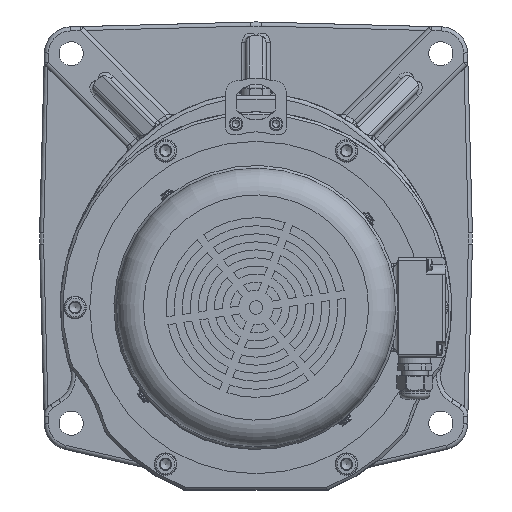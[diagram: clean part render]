
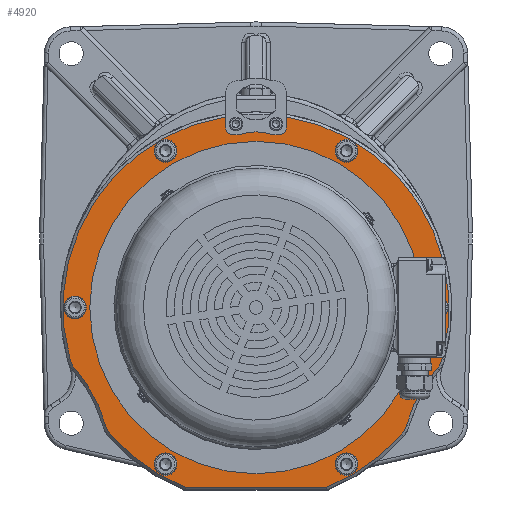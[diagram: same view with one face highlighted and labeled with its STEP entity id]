
A CAD part, left-side view. The second image highlights one B-rep face of the part: STEP entity #4920.
In plain terms, the highlighted planar face has unit normal (-1, 0, 0).
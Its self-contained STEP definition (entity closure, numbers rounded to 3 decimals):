
#1696=FACE_BOUND('',#10947,.T.);
#1697=FACE_BOUND('',#10948,.T.);
#1698=FACE_BOUND('',#10949,.T.);
#1699=FACE_BOUND('',#10950,.T.);
#1700=FACE_BOUND('',#10951,.T.);
#1701=FACE_BOUND('',#10952,.T.);
#1702=FACE_BOUND('',#10953,.T.);
#1703=FACE_BOUND('',#10954,.T.);
#2453=CIRCLE('',#42446,124.);
#2454=CIRCLE('',#42448,8.5);
#2455=CIRCLE('',#42450,8.5);
#2456=CIRCLE('',#42452,8.5);
#2457=CIRCLE('',#42454,8.5);
#2458=CIRCLE('',#42456,8.5);
#2459=CIRCLE('',#42458,8.5);
#2462=CIRCLE('',#42463,144.);
#2463=CIRCLE('',#42464,18.);
#2464=CIRCLE('',#42465,112.);
#2465=CIRCLE('',#42466,18.);
#2466=CIRCLE('',#42467,144.);
#2467=CIRCLE('',#42468,144.);
#2468=CIRCLE('',#42469,18.);
#2469=CIRCLE('',#42470,112.);
#2470=CIRCLE('',#42471,18.);
#2471=CIRCLE('',#42472,144.);
#2472=CIRCLE('',#42473,5.);
#2473=CIRCLE('',#42474,40.);
#2474=CIRCLE('',#42475,5.);
#4920=ADVANCED_FACE('',(#1696,#1697,#1698,#1699,#1700,#1701,#1702,#1703),
#7097,.F.);
#7097=PLANE('',#42476);
#10947=EDGE_LOOP('',(#21170,#21171,#21172,#21173,#21174,#21175,#21176,#21177,
#21178,#21179,#21180,#21181,#21182,#21183,#21184,#21185,#21186,#21187));
#10948=EDGE_LOOP('',(#21188));
#10949=EDGE_LOOP('',(#21189));
#10950=EDGE_LOOP('',(#21190));
#10951=EDGE_LOOP('',(#21191));
#10952=EDGE_LOOP('',(#21192));
#10953=EDGE_LOOP('',(#21193));
#10954=EDGE_LOOP('',(#21194));
#13603=LINE('',#62138,#16353);
#13604=LINE('',#62151,#16354);
#13605=LINE('',#62163,#16355);
#13606=LINE('',#62167,#16356);
#13607=LINE('',#62171,#16357);
#16353=VECTOR('',#48435,1.);
#16354=VECTOR('',#48446,1.);
#16355=VECTOR('',#48457,1.);
#16356=VECTOR('',#48460,1.);
#16357=VECTOR('',#48463,1.);
#21170=ORIENTED_EDGE('',*,*,#35781,.F.);
#21171=ORIENTED_EDGE('',*,*,#35782,.T.);
#21172=ORIENTED_EDGE('',*,*,#35783,.T.);
#21173=ORIENTED_EDGE('',*,*,#35784,.T.);
#21174=ORIENTED_EDGE('',*,*,#35785,.T.);
#21175=ORIENTED_EDGE('',*,*,#35786,.T.);
#21176=ORIENTED_EDGE('',*,*,#35787,.T.);
#21177=ORIENTED_EDGE('',*,*,#35788,.T.);
#21178=ORIENTED_EDGE('',*,*,#35789,.T.);
#21179=ORIENTED_EDGE('',*,*,#35790,.T.);
#21180=ORIENTED_EDGE('',*,*,#35791,.T.);
#21181=ORIENTED_EDGE('',*,*,#35792,.T.);
#21182=ORIENTED_EDGE('',*,*,#35793,.F.);
#21183=ORIENTED_EDGE('',*,*,#35794,.F.);
#21184=ORIENTED_EDGE('',*,*,#35795,.F.);
#21185=ORIENTED_EDGE('',*,*,#35796,.F.);
#21186=ORIENTED_EDGE('',*,*,#35797,.F.);
#21187=ORIENTED_EDGE('',*,*,#35798,.F.);
#21188=ORIENTED_EDGE('',*,*,#35778,.T.);
#21189=ORIENTED_EDGE('',*,*,#35777,.T.);
#21190=ORIENTED_EDGE('',*,*,#35776,.T.);
#21191=ORIENTED_EDGE('',*,*,#35775,.T.);
#21192=ORIENTED_EDGE('',*,*,#35774,.T.);
#21193=ORIENTED_EDGE('',*,*,#35773,.T.);
#21194=ORIENTED_EDGE('',*,*,#35772,.F.);
#31430=VERTEX_POINT('',#62113);
#31431=VERTEX_POINT('',#62116);
#31432=VERTEX_POINT('',#62119);
#31433=VERTEX_POINT('',#62122);
#31434=VERTEX_POINT('',#62125);
#31435=VERTEX_POINT('',#62128);
#31436=VERTEX_POINT('',#62131);
#31439=VERTEX_POINT('',#62139);
#31440=VERTEX_POINT('',#62140);
#31441=VERTEX_POINT('',#62142);
#31442=VERTEX_POINT('',#62144);
#31443=VERTEX_POINT('',#62146);
#31444=VERTEX_POINT('',#62148);
#31445=VERTEX_POINT('',#62150);
#31446=VERTEX_POINT('',#62152);
#31447=VERTEX_POINT('',#62154);
#31448=VERTEX_POINT('',#62156);
#31449=VERTEX_POINT('',#62158);
#31450=VERTEX_POINT('',#62160);
#31451=VERTEX_POINT('',#62162);
#31452=VERTEX_POINT('',#62164);
#31453=VERTEX_POINT('',#62166);
#31454=VERTEX_POINT('',#62168);
#31455=VERTEX_POINT('',#62170);
#31456=VERTEX_POINT('',#62172);
#35772=EDGE_CURVE('',#31430,#31430,#2453,.T.);
#35773=EDGE_CURVE('',#31431,#31431,#2454,.T.);
#35774=EDGE_CURVE('',#31432,#31432,#2455,.T.);
#35775=EDGE_CURVE('',#31433,#31433,#2456,.T.);
#35776=EDGE_CURVE('',#31434,#31434,#2457,.T.);
#35777=EDGE_CURVE('',#31435,#31435,#2458,.T.);
#35778=EDGE_CURVE('',#31436,#31436,#2459,.T.);
#35781=EDGE_CURVE('',#31439,#31440,#13603,.T.);
#35782=EDGE_CURVE('',#31439,#31441,#2462,.T.);
#35783=EDGE_CURVE('',#31441,#31442,#2463,.T.);
#35784=EDGE_CURVE('',#31442,#31443,#2464,.T.);
#35785=EDGE_CURVE('',#31443,#31444,#2465,.T.);
#35786=EDGE_CURVE('',#31444,#31445,#2466,.T.);
#35787=EDGE_CURVE('',#31445,#31446,#13604,.T.);
#35788=EDGE_CURVE('',#31446,#31447,#2467,.T.);
#35789=EDGE_CURVE('',#31447,#31448,#2468,.T.);
#35790=EDGE_CURVE('',#31448,#31449,#2469,.T.);
#35791=EDGE_CURVE('',#31449,#31450,#2470,.T.);
#35792=EDGE_CURVE('',#31450,#31451,#2471,.T.);
#35793=EDGE_CURVE('',#31452,#31451,#13605,.T.);
#35794=EDGE_CURVE('',#31453,#31452,#2472,.T.);
#35795=EDGE_CURVE('',#31454,#31453,#13606,.T.);
#35796=EDGE_CURVE('',#31455,#31454,#2473,.T.);
#35797=EDGE_CURVE('',#31456,#31455,#13607,.T.);
#35798=EDGE_CURVE('',#31440,#31456,#2474,.T.);
#42446=AXIS2_PLACEMENT_3D('',#62112,#48401,#48402);
#42448=AXIS2_PLACEMENT_3D('',#62115,#48405,#48406);
#42450=AXIS2_PLACEMENT_3D('',#62118,#48409,#48410);
#42452=AXIS2_PLACEMENT_3D('',#62121,#48413,#48414);
#42454=AXIS2_PLACEMENT_3D('',#62124,#48417,#48418);
#42456=AXIS2_PLACEMENT_3D('',#62127,#48421,#48422);
#42458=AXIS2_PLACEMENT_3D('',#62130,#48425,#48426);
#42463=AXIS2_PLACEMENT_3D('',#62141,#48436,#48437);
#42464=AXIS2_PLACEMENT_3D('',#62143,#48438,#48439);
#42465=AXIS2_PLACEMENT_3D('',#62145,#48440,#48441);
#42466=AXIS2_PLACEMENT_3D('',#62147,#48442,#48443);
#42467=AXIS2_PLACEMENT_3D('',#62149,#48444,#48445);
#42468=AXIS2_PLACEMENT_3D('',#62153,#48447,#48448);
#42469=AXIS2_PLACEMENT_3D('',#62155,#48449,#48450);
#42470=AXIS2_PLACEMENT_3D('',#62157,#48451,#48452);
#42471=AXIS2_PLACEMENT_3D('',#62159,#48453,#48454);
#42472=AXIS2_PLACEMENT_3D('',#62161,#48455,#48456);
#42473=AXIS2_PLACEMENT_3D('',#62165,#48458,#48459);
#42474=AXIS2_PLACEMENT_3D('',#62169,#48461,#48462);
#42475=AXIS2_PLACEMENT_3D('',#62173,#48464,#48465);
#42476=AXIS2_PLACEMENT_3D('',#62174,#48466,#48467);
#48401=DIRECTION('',(-1.,0.,0.));
#48402=DIRECTION('',(0.,0.,1.));
#48405=DIRECTION('',(1.,0.,0.));
#48406=DIRECTION('',(0.,0.,-1.));
#48409=DIRECTION('',(1.,0.,0.));
#48410=DIRECTION('',(0.,0.,-1.));
#48413=DIRECTION('',(1.,0.,0.));
#48414=DIRECTION('',(0.,0.,-1.));
#48417=DIRECTION('',(1.,0.,0.));
#48418=DIRECTION('',(0.,0.,-1.));
#48421=DIRECTION('',(1.,0.,0.));
#48422=DIRECTION('',(0.,0.,-1.));
#48425=DIRECTION('',(1.,0.,0.));
#48426=DIRECTION('',(0.,0.,-1.));
#48435=DIRECTION('',(0.,0.,-1.));
#48436=DIRECTION('',(-1.,0.,0.));
#48437=DIRECTION('',(0.,0.,-1.));
#48438=DIRECTION('',(-1.,0.,0.));
#48439=DIRECTION('',(0.,0.,-1.));
#48440=DIRECTION('',(1.,0.,0.));
#48441=DIRECTION('',(0.,0.,-1.));
#48442=DIRECTION('',(-1.,0.,0.));
#48443=DIRECTION('',(0.,0.,-1.));
#48444=DIRECTION('',(-1.,0.,0.));
#48445=DIRECTION('',(0.,0.,-1.));
#48446=DIRECTION('',(0.,-1.,0.));
#48447=DIRECTION('',(-1.,0.,0.));
#48448=DIRECTION('',(0.,0.,-1.));
#48449=DIRECTION('',(-1.,0.,0.));
#48450=DIRECTION('',(0.,0.,-1.));
#48451=DIRECTION('',(1.,0.,0.));
#48452=DIRECTION('',(0.,0.,-1.));
#48453=DIRECTION('',(-1.,0.,0.));
#48454=DIRECTION('',(0.,0.,-1.));
#48455=DIRECTION('',(-1.,0.,0.));
#48456=DIRECTION('',(0.,0.,-1.));
#48457=DIRECTION('',(0.,0.,1.));
#48458=DIRECTION('',(-1.,0.,0.));
#48459=DIRECTION('',(0.,-1.,0.));
#48460=DIRECTION('',(0.,-1.,0.));
#48461=DIRECTION('',(1.,0.,0.));
#48462=DIRECTION('',(0.,-1.,0.));
#48463=DIRECTION('',(0.,-1.,0.));
#48464=DIRECTION('',(-1.,0.,0.));
#48465=DIRECTION('',(0.,-1.,0.));
#48466=DIRECTION('',(1.,0.,0.));
#48467=DIRECTION('',(0.,0.,-1.));
#62112=CARTESIAN_POINT('',(-174.,0.,-51.5));
#62113=CARTESIAN_POINT('',(-174.,0.,72.5));
#62115=CARTESIAN_POINT('',(-174.,-135.,-51.5));
#62116=CARTESIAN_POINT('',(-174.,-135.,-60.));
#62118=CARTESIAN_POINT('',(-174.,-67.5,-168.413));
#62119=CARTESIAN_POINT('',(-174.,-67.5,-176.913));
#62121=CARTESIAN_POINT('',(-174.,-67.5,65.413));
#62122=CARTESIAN_POINT('',(-174.,-67.5,56.913));
#62124=CARTESIAN_POINT('',(-174.,67.5,-168.413));
#62125=CARTESIAN_POINT('',(-174.,67.5,-176.913));
#62127=CARTESIAN_POINT('',(-174.,67.5,65.413));
#62128=CARTESIAN_POINT('',(-174.,67.5,56.913));
#62130=CARTESIAN_POINT('',(-174.,135.,-51.5));
#62131=CARTESIAN_POINT('',(-174.,135.,-60.));
#62138=CARTESIAN_POINT('',(-174.,22.5,109.497));
#62139=CARTESIAN_POINT('',(-174.,22.5,90.731));
#62140=CARTESIAN_POINT('',(-174.,22.5,82.5));
#62141=CARTESIAN_POINT('',(-174.,0.,-51.5));
#62142=CARTESIAN_POINT('',(-174.,138.723,-90.125));
#62143=CARTESIAN_POINT('',(-174.,121.383,-85.297));
#62144=CARTESIAN_POINT('',(-174.,135.037,-97.025));
#62145=CARTESIAN_POINT('',(-174.,220.,-170.));
#62146=CARTESIAN_POINT('',(-174.,112.316,-139.209));
#62147=CARTESIAN_POINT('',(-174.,95.009,-134.26));
#62148=CARTESIAN_POINT('',(-174.,108.582,-146.083));
#62149=CARTESIAN_POINT('',(-174.,0.,-51.5));
#62150=CARTESIAN_POINT('',(-174.,52.726,-185.5));
#62151=CARTESIAN_POINT('',(-174.,0.,-185.5));
#62152=CARTESIAN_POINT('',(-174.,-52.726,-185.5));
#62153=CARTESIAN_POINT('',(-174.,0.,-51.5));
#62154=CARTESIAN_POINT('',(-174.,-108.582,-146.083));
#62155=CARTESIAN_POINT('',(-174.,-95.009,-134.26));
#62156=CARTESIAN_POINT('',(-174.,-112.316,-139.209));
#62157=CARTESIAN_POINT('',(-174.,-220.,-170.));
#62158=CARTESIAN_POINT('',(-174.,-135.037,-97.025));
#62159=CARTESIAN_POINT('',(-174.,-121.383,-85.297));
#62160=CARTESIAN_POINT('',(-174.,-138.723,-90.125));
#62161=CARTESIAN_POINT('',(-174.,0.,-51.5));
#62162=CARTESIAN_POINT('',(-174.,-22.5,90.731));
#62163=CARTESIAN_POINT('',(-174.,-22.5,82.5));
#62164=CARTESIAN_POINT('',(-174.,-22.5,82.5));
#62165=CARTESIAN_POINT('',(-174.,-17.5,82.5));
#62166=CARTESIAN_POINT('',(-174.,-17.5,77.5));
#62167=CARTESIAN_POINT('',(-174.,-12.5,77.5));
#62168=CARTESIAN_POINT('',(-174.,-12.5,77.5));
#62169=CARTESIAN_POINT('',(-174.,0.,39.503));
#62170=CARTESIAN_POINT('',(-174.,12.5,77.5));
#62171=CARTESIAN_POINT('',(-174.,17.5,77.5));
#62172=CARTESIAN_POINT('',(-174.,17.5,77.5));
#62173=CARTESIAN_POINT('',(-174.,17.5,82.5));
#62174=CARTESIAN_POINT('',(-174.,0.,94.5));
